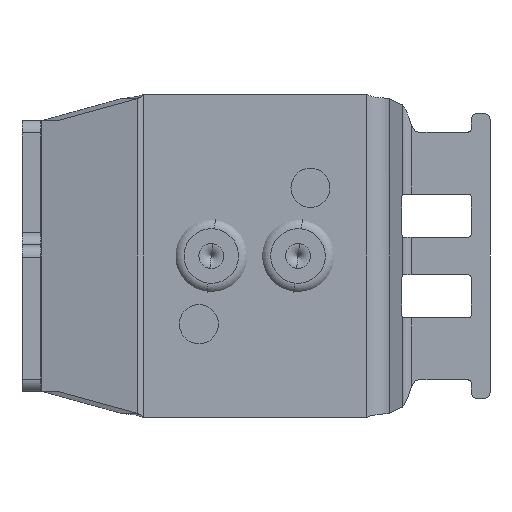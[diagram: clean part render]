
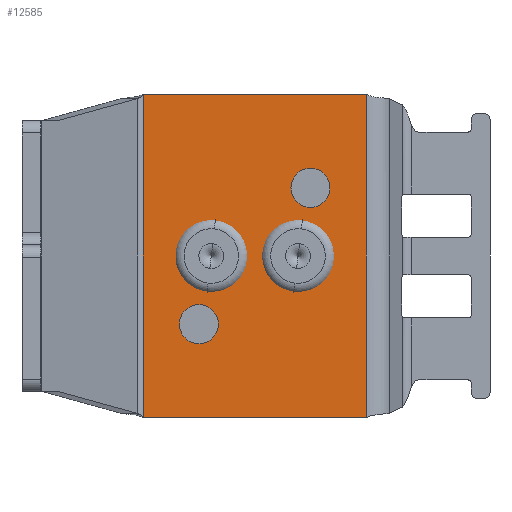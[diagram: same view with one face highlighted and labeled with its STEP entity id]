
A CAD part, front view. The second image highlights one B-rep face of the part: STEP entity #12585.
In plain terms, the highlighted planar face has unit normal (0, -1, 0).
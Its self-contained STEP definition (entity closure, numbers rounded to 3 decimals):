
#141 = CARTESIAN_POINT ( 'NONE',  ( -5.138, 11.355, 7.5 ) ) ;
#185 = AXIS2_PLACEMENT_3D ( 'NONE', #4220, #9515, #8395 ) ;
#483 = VERTEX_POINT ( 'NONE', #9380 ) ;
#608 = DIRECTION ( 'NONE',  ( 0., 0., 1. ) ) ;
#698 = EDGE_CURVE ( 'NONE', #5524, #2600, #9942, .T. ) ;
#757 = DIRECTION ( 'NONE',  ( -1., 0., 0. ) ) ;
#764 = CIRCLE ( 'NONE', #5420, 1.575 ) ;
#844 = EDGE_CURVE ( 'NONE', #483, #12500, #10587, .T. ) ;
#923 = VERTEX_POINT ( 'NONE', #4229 ) ;
#981 = ORIENTED_EDGE ( 'NONE', *, *, #12358, .T. ) ;
#1180 = CARTESIAN_POINT ( 'NONE',  ( -4.138, 11.355, 13. ) ) ;
#1334 = DIRECTION ( 'NONE',  ( 0., 1., 0. ) ) ;
#1419 = EDGE_CURVE ( 'NONE', #13036, #5646, #11236, .T. ) ;
#1735 = EDGE_LOOP ( 'NONE', ( #13005, #5140 ) ) ;
#1916 = FACE_BOUND ( 'NONE', #1735, .T. ) ;
#1955 = CARTESIAN_POINT ( 'NONE',  ( 3.862, 11.355, 18.5 ) ) ;
#2538 = EDGE_CURVE ( 'NONE', #7072, #11227, #7671, .T. ) ;
#2600 = VERTEX_POINT ( 'NONE', #2702 ) ;
#2634 = DIRECTION ( 'NONE',  ( -1., 0., 0. ) ) ;
#2702 = CARTESIAN_POINT ( 'NONE',  ( 4.437, 11.355, 13. ) ) ;
#2756 = CIRCLE ( 'NONE', #6578, 1.575 ) ;
#2911 = EDGE_LOOP ( 'NONE', ( #9492, #8709, #3970, #9958 ) ) ;
#3043 = CARTESIAN_POINT ( 'NONE',  ( 2.862, 11.355, 13. ) ) ;
#3596 = CARTESIAN_POINT ( 'NONE',  ( 1.287, 11.355, 13. ) ) ;
#3970 = ORIENTED_EDGE ( 'NONE', *, *, #4464, .T. ) ;
#4073 = CARTESIAN_POINT ( 'NONE',  ( 8.362, 11.355, 0. ) ) ;
#4220 = CARTESIAN_POINT ( 'NONE',  ( -5.138, 11.355, 7.5 ) ) ;
#4229 = CARTESIAN_POINT ( 'NONE',  ( -5.713, 11.355, 13. ) ) ;
#4435 = FACE_BOUND ( 'NONE', #12121, .T. ) ;
#4464 = EDGE_CURVE ( 'NONE', #13036, #7072, #7679, .T. ) ;
#4575 = VECTOR ( 'NONE', #11938, 1000. ) ;
#4747 = DIRECTION ( 'NONE',  ( 0., 1., 0. ) ) ;
#4749 = CARTESIAN_POINT ( 'NONE',  ( 8.362, 11.355, 26. ) ) ;
#5009 = CIRCLE ( 'NONE', #9661, 1.575 ) ;
#5085 = EDGE_CURVE ( 'NONE', #923, #7212, #764, .T. ) ;
#5140 = ORIENTED_EDGE ( 'NONE', *, *, #12841, .T. ) ;
#5420 = AXIS2_PLACEMENT_3D ( 'NONE', #1180, #8136, #12179 ) ;
#5524 = VERTEX_POINT ( 'NONE', #3596 ) ;
#5646 = VERTEX_POINT ( 'NONE', #11743 ) ;
#5803 = VECTOR ( 'NONE', #608, 1000. ) ;
#5811 = CARTESIAN_POINT ( 'NONE',  ( 3.862, 11.355, 18.5 ) ) ;
#5881 = CIRCLE ( 'NONE', #185, 1.575 ) ;
#5959 = PLANE ( 'NONE',  #12527 ) ;
#5992 = DIRECTION ( 'NONE',  ( 0., 1., 0. ) ) ;
#6026 = CARTESIAN_POINT ( 'NONE',  ( 8.362, 11.355, 26. ) ) ;
#6153 = VERTEX_POINT ( 'NONE', #7951 ) ;
#6578 = AXIS2_PLACEMENT_3D ( 'NONE', #11689, #11885, #7638 ) ;
#6639 = EDGE_CURVE ( 'NONE', #11227, #5646, #8891, .T. ) ;
#6731 = VECTOR ( 'NONE', #12612, 1000. ) ;
#6736 = EDGE_CURVE ( 'NONE', #6153, #11932, #5009, .T. ) ;
#6813 = DIRECTION ( 'NONE',  ( 0., -1., 0. ) ) ;
#7072 = VERTEX_POINT ( 'NONE', #6026 ) ;
#7212 = VERTEX_POINT ( 'NONE', #8290 ) ;
#7231 = DIRECTION ( 'NONE',  ( 0., 1., 0. ) ) ;
#7382 = VECTOR ( 'NONE', #12648, 1000. ) ;
#7425 = DIRECTION ( 'NONE',  ( 0., 1., 0. ) ) ;
#7638 = DIRECTION ( 'NONE',  ( -1., 0., 0. ) ) ;
#7671 = LINE ( 'NONE', #4749, #7382 ) ;
#7679 = LINE ( 'NONE', #10794, #5803 ) ;
#7838 = CIRCLE ( 'NONE', #10802, 1.575 ) ;
#7860 = EDGE_CURVE ( 'NONE', #7212, #923, #7973, .T. ) ;
#7951 = CARTESIAN_POINT ( 'NONE',  ( -6.713, 11.355, 7.5 ) ) ;
#7973 = CIRCLE ( 'NONE', #10095, 1.575 ) ;
#8009 = CARTESIAN_POINT ( 'NONE',  ( -9.638, 11.355, 26. ) ) ;
#8136 = DIRECTION ( 'NONE',  ( 0., 1., 0. ) ) ;
#8290 = CARTESIAN_POINT ( 'NONE',  ( -2.563, 11.355, 13. ) ) ;
#8395 = DIRECTION ( 'NONE',  ( -1., 0., 0. ) ) ;
#8488 = FACE_BOUND ( 'NONE', #10060, .T. ) ;
#8709 = ORIENTED_EDGE ( 'NONE', *, *, #1419, .F. ) ;
#8818 = CARTESIAN_POINT ( 'NONE',  ( -9.638, 11.355, 26. ) ) ;
#8891 = LINE ( 'NONE', #8818, #4575 ) ;
#9380 = CARTESIAN_POINT ( 'NONE',  ( 2.287, 11.355, 18.5 ) ) ;
#9391 = EDGE_CURVE ( 'NONE', #11932, #6153, #5881, .T. ) ;
#9492 = ORIENTED_EDGE ( 'NONE', *, *, #6639, .T. ) ;
#9515 = DIRECTION ( 'NONE',  ( 0., 1., 0. ) ) ;
#9587 = EDGE_LOOP ( 'NONE', ( #12832, #12470 ) ) ;
#9661 = AXIS2_PLACEMENT_3D ( 'NONE', #141, #7231, #10073 ) ;
#9729 = AXIS2_PLACEMENT_3D ( 'NONE', #3043, #1334, #10536 ) ;
#9787 = DIRECTION ( 'NONE',  ( 1., 0., 0. ) ) ;
#9923 = ORIENTED_EDGE ( 'NONE', *, *, #7860, .T. ) ;
#9942 = CIRCLE ( 'NONE', #9729, 1.575 ) ;
#9958 = ORIENTED_EDGE ( 'NONE', *, *, #2538, .T. ) ;
#10000 = ORIENTED_EDGE ( 'NONE', *, *, #5085, .T. ) ;
#10060 = EDGE_LOOP ( 'NONE', ( #12089, #981 ) ) ;
#10073 = DIRECTION ( 'NONE',  ( -1., 0., 0. ) ) ;
#10095 = AXIS2_PLACEMENT_3D ( 'NONE', #11525, #7425, #10415 ) ;
#10415 = DIRECTION ( 'NONE',  ( -1., 0., 0. ) ) ;
#10425 = CARTESIAN_POINT ( 'NONE',  ( -9.638, 11.355, 26. ) ) ;
#10473 = FACE_OUTER_BOUND ( 'NONE', #2911, .T. ) ;
#10536 = DIRECTION ( 'NONE',  ( -1., 0., 0. ) ) ;
#10587 = CIRCLE ( 'NONE', #11844, 1.575 ) ;
#10794 = CARTESIAN_POINT ( 'NONE',  ( 8.362, 11.355, 26. ) ) ;
#10802 = AXIS2_PLACEMENT_3D ( 'NONE', #1955, #5992, #757 ) ;
#11227 = VERTEX_POINT ( 'NONE', #10425 ) ;
#11236 = LINE ( 'NONE', #12423, #6731 ) ;
#11504 = CARTESIAN_POINT ( 'NONE',  ( -3.563, 11.355, 7.5 ) ) ;
#11525 = CARTESIAN_POINT ( 'NONE',  ( -4.138, 11.355, 13. ) ) ;
#11689 = CARTESIAN_POINT ( 'NONE',  ( 2.862, 11.355, 13. ) ) ;
#11743 = CARTESIAN_POINT ( 'NONE',  ( -9.638, 11.355, 0. ) ) ;
#11782 = FACE_BOUND ( 'NONE', #9587, .T. ) ;
#11844 = AXIS2_PLACEMENT_3D ( 'NONE', #5811, #4747, #2634 ) ;
#11885 = DIRECTION ( 'NONE',  ( 0., 1., 0. ) ) ;
#11932 = VERTEX_POINT ( 'NONE', #11504 ) ;
#11938 = DIRECTION ( 'NONE',  ( 0., 0., -1. ) ) ;
#12089 = ORIENTED_EDGE ( 'NONE', *, *, #698, .T. ) ;
#12121 = EDGE_LOOP ( 'NONE', ( #10000, #9923 ) ) ;
#12179 = DIRECTION ( 'NONE',  ( -1., 0., 0. ) ) ;
#12358 = EDGE_CURVE ( 'NONE', #2600, #5524, #2756, .T. ) ;
#12423 = CARTESIAN_POINT ( 'NONE',  ( 8.362, 11.355, 0. ) ) ;
#12470 = ORIENTED_EDGE ( 'NONE', *, *, #9391, .T. ) ;
#12500 = VERTEX_POINT ( 'NONE', #12716 ) ;
#12527 = AXIS2_PLACEMENT_3D ( 'NONE', #8009, #6813, #9787 ) ;
#12585 = ADVANCED_FACE ( 'NONE', ( #10473, #11782, #4435, #8488, #1916 ), #5959, .T. ) ;
#12612 = DIRECTION ( 'NONE',  ( -1., 0., 0. ) ) ;
#12648 = DIRECTION ( 'NONE',  ( -1., 0., 0. ) ) ;
#12716 = CARTESIAN_POINT ( 'NONE',  ( 5.437, 11.355, 18.5 ) ) ;
#12832 = ORIENTED_EDGE ( 'NONE', *, *, #6736, .T. ) ;
#12841 = EDGE_CURVE ( 'NONE', #12500, #483, #7838, .T. ) ;
#13005 = ORIENTED_EDGE ( 'NONE', *, *, #844, .T. ) ;
#13036 = VERTEX_POINT ( 'NONE', #4073 ) ;
